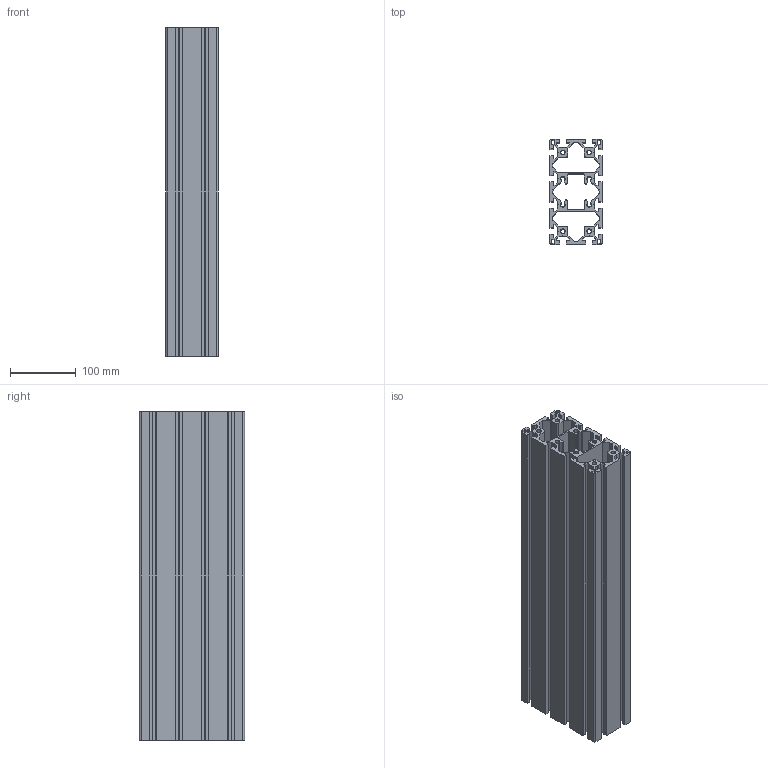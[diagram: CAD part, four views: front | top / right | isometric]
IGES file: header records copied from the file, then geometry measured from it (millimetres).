
Start section: SolidWorks IGES file using analytic representation for surfaces
Global section: file name: C:\Documents and Settings\Administrator\デスクトップ\指定保存後3回目\SolidWorks\SF\SF40・45\Frame\SFF-814.IGS,41HSolidWorks; native system: 2006 by SolidWorks Corporation; preprocessor: SolidWorks 2006 by SolidWorks Corporation; author: Administrator; date: 061213.113341; units: millimetre
Bounding box: 80 x 160 x 500 mm (x, y, z)
Surface area: 919054.4 mm2 (no closed solid volume)
Topology: 0 solids, 0 shells, 368 faces, 4318 edges, 5416 vertices
Faces by surface type: bspline 234, revolution 134
